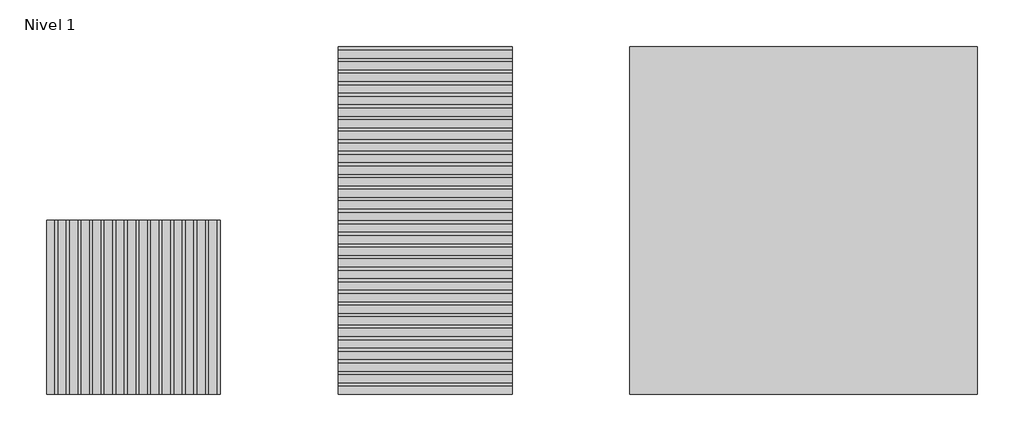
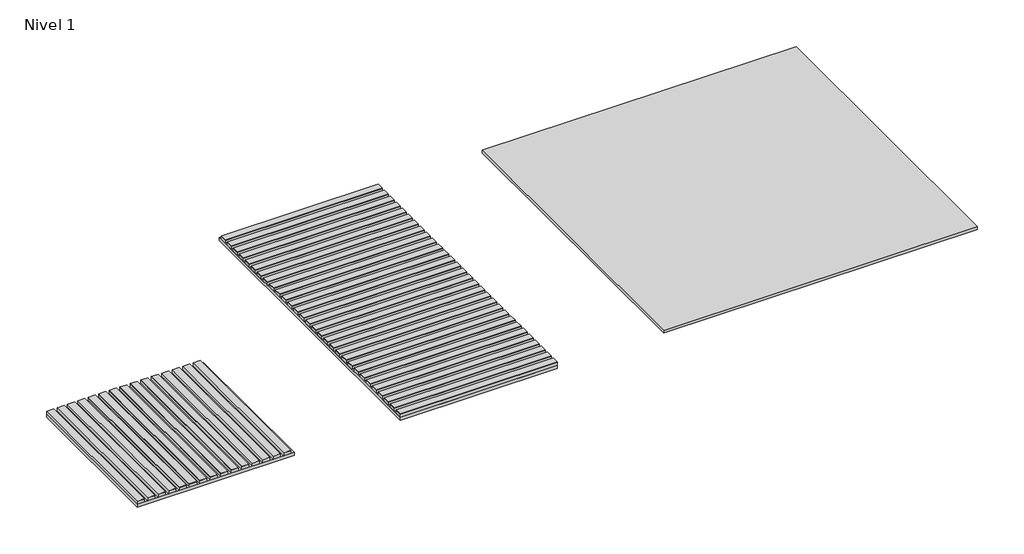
# One storey: 3 proxies.
"""IFC4 building model written with IfcOpenShell, lengths in millimetres."""

from ifc_helpers import new_model, si_unit, origin, place, context, project, spatial, transform, mapped, element, save
from components import generic_models_8722149c, generic_models_d855582b, generic_models_2d690f92

model = new_model("IFC4")

# Units and contexts
model_context = context("Model", 3, world=origin())
ifc_project = project(units=[si_unit("LENGTHUNIT", "METRE", prefix="MILLI")], contexts=[model_context])

# Site, building, storey
site = spatial("IfcSite", under=ifc_project)
building = spatial("IfcBuilding", under=site)
storey = spatial("IfcBuildingStorey", under=building, Name="Nivel 1", Elevation=0.0)

# Proxies
placement = place(None, origin())
generic_models_shape = generic_models_8722149c(model_context)
element("IfcBuildingElementProxy", 1, Name="MODELO3D_PLAFONES_COMP 1.3dm", ObjectType="MODELO3D_PLAFONES_COMP 1.3dm", at=placement, inside=storey, context=model_context, shape_type="MappedRepresentation", body=[
    mapped(generic_models_shape, transform((0.0, 0.0, 0.0), x_axis=(1.0, 0.0, 0.0), y_axis=(0.0, 1.0, 0.0), z_axis=(0.0, 0.0, 1.0))),
])
generic_models_2_shape = generic_models_d855582b(model_context)
element("IfcBuildingElementProxy", 2, Name="MODELO3D_PLAFONES_COMP 2.3dm", ObjectType="MODELO3D_PLAFONES_COMP 2.3dm", at=placement, inside=storey, context=model_context, shape_type="MappedRepresentation", body=[
    mapped(generic_models_2_shape, transform((0.0, 0.0, 0.0), x_axis=(1.0, 0.0, 0.0), y_axis=(0.0, 1.0, 0.0), z_axis=(0.0, 0.0, 1.0))),
])
generic_models_3_shape = generic_models_2d690f92(model_context)
element("IfcBuildingElementProxy", 3, Name="MODELO3D_PLAFONES_COMP 3.3dm", ObjectType="MODELO3D_PLAFONES_COMP 3.3dm", at=placement, inside=storey, context=model_context, shape_type="MappedRepresentation", body=[
    mapped(generic_models_3_shape, transform((0.0, 0.0, 0.0), x_axis=(1.0, 0.0, 0.0), y_axis=(0.0, 1.0, 0.0), z_axis=(0.0, 0.0, 1.0))),
])

save(model, "model.ifc")
